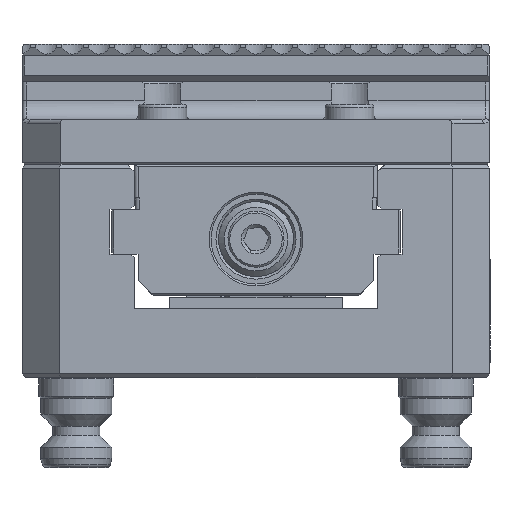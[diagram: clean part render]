
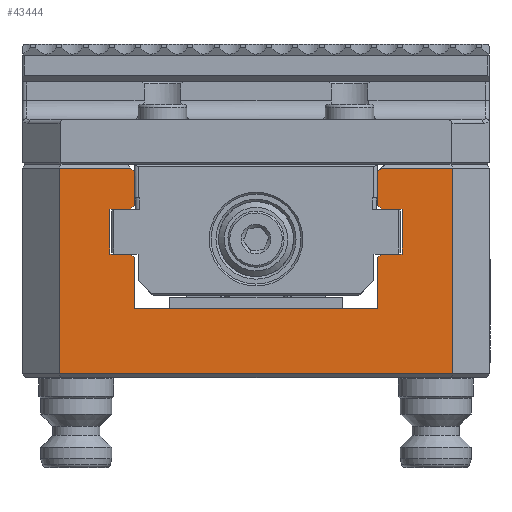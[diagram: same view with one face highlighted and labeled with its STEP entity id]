
A CAD part, left-side view. The second image highlights one B-rep face of the part: STEP entity #43444.
In plain terms, the highlighted planar face has unit normal (-1, 0, 0).
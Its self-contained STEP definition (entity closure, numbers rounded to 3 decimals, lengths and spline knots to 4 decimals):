
#3210=PLANE('',#45658);
#4335=LINE('',#68720,#8159);
#4402=LINE('',#69030,#8226);
#4414=LINE('',#69062,#8238);
#4427=LINE('',#69086,#8251);
#4433=LINE('',#69101,#8257);
#4481=LINE('',#69370,#8305);
#4492=LINE('',#69389,#8316);
#4550=LINE('',#69505,#8374);
#6076=LINE('',#82172,#9900);
#6091=LINE('',#82200,#9915);
#6098=LINE('',#82215,#9922);
#6105=LINE('',#82229,#9929);
#6113=LINE('',#82244,#9937);
#6124=LINE('',#82262,#9948);
#6125=LINE('',#82265,#9949);
#6131=LINE('',#82278,#9955);
#6132=LINE('',#82279,#9956);
#6133=LINE('',#82280,#9957);
#6134=LINE('',#82281,#9958);
#6135=LINE('',#82282,#9959);
#6136=LINE('',#82283,#9960);
#6137=LINE('',#82284,#9961);
#8159=VECTOR('',#48980,0.3937);
#8226=VECTOR('',#49273,0.3937);
#8238=VECTOR('',#49301,0.3937);
#8251=VECTOR('',#49316,0.3937);
#8257=VECTOR('',#49326,0.3937);
#8305=VECTOR('',#49522,0.3937);
#8316=VECTOR('',#49539,0.3937);
#8374=VECTOR('',#49603,0.3937);
#9900=VECTOR('',#51945,0.3937);
#9915=VECTOR('',#51972,0.3937);
#9922=VECTOR('',#51985,0.3937);
#9929=VECTOR('',#51994,0.3937);
#9937=VECTOR('',#52004,0.3937);
#9948=VECTOR('',#52019,0.3937);
#9949=VECTOR('',#52022,0.3937);
#9955=VECTOR('',#52030,0.3937);
#9956=VECTOR('',#52031,0.3937);
#9957=VECTOR('',#52032,0.3937);
#9958=VECTOR('',#52033,0.3937);
#9959=VECTOR('',#52034,0.3937);
#9960=VECTOR('',#52035,0.3937);
#9961=VECTOR('',#52036,0.3937);
#13180=FACE_OUTER_BOUND('',#15620,.T.);
#15620=EDGE_LOOP('',(#35190,#35191,#35192,#35193,#35194,#35195,#35196,#35197,
#35198,#35199,#35200,#35201,#35202,#35203,#35204,#35205,#35206,#35207,#35208,
#35209,#35210,#35211));
#18250=VERTEX_POINT('',#68717);
#18251=VERTEX_POINT('',#68719);
#18338=VERTEX_POINT('',#69028);
#18339=VERTEX_POINT('',#69029);
#18350=VERTEX_POINT('',#69060);
#18351=VERTEX_POINT('',#69061);
#18354=VERTEX_POINT('',#69069);
#18361=VERTEX_POINT('',#69084);
#18366=VERTEX_POINT('',#69097);
#18368=VERTEX_POINT('',#69100);
#18426=VERTEX_POINT('',#69367);
#18427=VERTEX_POINT('',#69369);
#18487=VERTEX_POINT('',#69504);
#20228=VERTEX_POINT('',#82169);
#20239=VERTEX_POINT('',#82212);
#20240=VERTEX_POINT('',#82214);
#20245=VERTEX_POINT('',#82226);
#20252=VERTEX_POINT('',#82242);
#20257=VERTEX_POINT('',#82260);
#20258=VERTEX_POINT('',#82264);
#20263=VERTEX_POINT('',#82276);
#20264=VERTEX_POINT('',#82277);
#22606=EDGE_CURVE('',#18251,#18250,#4335,.T.);
#22744=EDGE_CURVE('',#18338,#18339,#4402,.T.);
#22759=EDGE_CURVE('',#18350,#18351,#4414,.T.);
#22772=EDGE_CURVE('',#18361,#18354,#4427,.T.);
#22778=EDGE_CURVE('',#18366,#18368,#4433,.T.);
#22878=EDGE_CURVE('',#18426,#18427,#4481,.T.);
#22889=EDGE_CURVE('',#18368,#18426,#4492,.T.);
#22947=EDGE_CURVE('',#18354,#18487,#4550,.T.);
#25593=EDGE_CURVE('',#18487,#20228,#6076,.T.);
#25608=EDGE_CURVE('',#20228,#18366,#6091,.T.);
#25615=EDGE_CURVE('',#20239,#20240,#6098,.T.);
#25622=EDGE_CURVE('',#18250,#20245,#6105,.T.);
#25630=EDGE_CURVE('',#20252,#20245,#6113,.T.);
#25641=EDGE_CURVE('',#18251,#20257,#6124,.T.);
#25642=EDGE_CURVE('',#20257,#20258,#6125,.T.);
#25648=EDGE_CURVE('',#20263,#20264,#6131,.T.);
#25649=EDGE_CURVE('',#18351,#20263,#6132,.T.);
#25650=EDGE_CURVE('',#20258,#18350,#6133,.T.);
#25651=EDGE_CURVE('',#18339,#20252,#6134,.T.);
#25652=EDGE_CURVE('',#20240,#18338,#6135,.T.);
#25653=EDGE_CURVE('',#18427,#20239,#6136,.T.);
#25654=EDGE_CURVE('',#20264,#18361,#6137,.T.);
#35190=ORIENTED_EDGE('',*,*,#25648,.F.);
#35191=ORIENTED_EDGE('',*,*,#25649,.F.);
#35192=ORIENTED_EDGE('',*,*,#22759,.F.);
#35193=ORIENTED_EDGE('',*,*,#25650,.F.);
#35194=ORIENTED_EDGE('',*,*,#25642,.F.);
#35195=ORIENTED_EDGE('',*,*,#25641,.F.);
#35196=ORIENTED_EDGE('',*,*,#22606,.T.);
#35197=ORIENTED_EDGE('',*,*,#25622,.T.);
#35198=ORIENTED_EDGE('',*,*,#25630,.F.);
#35199=ORIENTED_EDGE('',*,*,#25651,.F.);
#35200=ORIENTED_EDGE('',*,*,#22744,.F.);
#35201=ORIENTED_EDGE('',*,*,#25652,.F.);
#35202=ORIENTED_EDGE('',*,*,#25615,.F.);
#35203=ORIENTED_EDGE('',*,*,#25653,.F.);
#35204=ORIENTED_EDGE('',*,*,#22878,.F.);
#35205=ORIENTED_EDGE('',*,*,#22889,.F.);
#35206=ORIENTED_EDGE('',*,*,#22778,.F.);
#35207=ORIENTED_EDGE('',*,*,#25608,.F.);
#35208=ORIENTED_EDGE('',*,*,#25593,.F.);
#35209=ORIENTED_EDGE('',*,*,#22947,.F.);
#35210=ORIENTED_EDGE('',*,*,#22772,.F.);
#35211=ORIENTED_EDGE('',*,*,#25654,.F.);
#43444=ADVANCED_FACE('',(#13180),#3210,.F.);
#45658=AXIS2_PLACEMENT_3D('',#82275,#52028,#52029);
#48980=DIRECTION('',(0.,1.,0.));
#49273=DIRECTION('',(0.,0.,-1.));
#49301=DIRECTION('',(0.,0.,1.));
#49316=DIRECTION('',(0.,-0.707,0.707));
#49326=DIRECTION('',(0.,0.,1.));
#49522=DIRECTION('',(0.,-0.707,-0.707));
#49539=DIRECTION('',(0.,-1.,0.));
#49603=DIRECTION('',(0.,-1.,0.));
#51945=DIRECTION('',(0.,0.,-1.));
#51972=DIRECTION('',(0.,1.,0.));
#51985=DIRECTION('',(0.,0.707,-0.707));
#51994=DIRECTION('',(0.,0.,1.));
#52004=DIRECTION('',(0.,-0.707,-0.707));
#52019=DIRECTION('',(0.,0.,1.));
#52022=DIRECTION('',(0.,-0.707,0.707));
#52028=DIRECTION('center_axis',(1.,0.,0.));
#52029=DIRECTION('ref_axis',(0.,1.,0.));
#52030=DIRECTION('',(0.,0.707,0.707));
#52031=DIRECTION('',(0.,1.,0.));
#52032=DIRECTION('',(0.,-1.,0.));
#52033=DIRECTION('',(0.,-1.,0.));
#52034=DIRECTION('',(0.,1.,0.));
#52035=DIRECTION('',(0.,0.,-1.));
#52036=DIRECTION('',(0.,0.,1.));
#68717=CARTESIAN_POINT('',(-3.1496,1.2795,1.1614));
#68719=CARTESIAN_POINT('',(-3.1496,-1.2795,1.1614));
#68720=CARTESIAN_POINT('',(-3.1496,-1.6436,1.1614));
#69028=CARTESIAN_POINT('',(-3.1496,1.5354,2.2047));
#69029=CARTESIAN_POINT('',(-3.1496,1.5354,1.7323));
#69030=CARTESIAN_POINT('',(-3.1496,1.5354,1.3189));
#69060=CARTESIAN_POINT('',(-3.1496,-1.5354,1.7323));
#69061=CARTESIAN_POINT('',(-3.1496,-1.5354,2.2047));
#69062=CARTESIAN_POINT('',(-3.1496,-1.5354,1.3189));
#69069=CARTESIAN_POINT('',(-3.1496,-1.3189,2.6378));
#69084=CARTESIAN_POINT('',(-3.1496,-1.2795,2.5984));
#69086=CARTESIAN_POINT('',(-3.1496,-1.2795,2.5984));
#69097=CARTESIAN_POINT('',(-3.1496,2.0669,0.4724));
#69100=CARTESIAN_POINT('',(-3.1496,2.0669,2.6378));
#69101=CARTESIAN_POINT('',(-3.1496,2.0669,0.4331));
#69367=CARTESIAN_POINT('',(-3.1496,1.3189,2.6378));
#69369=CARTESIAN_POINT('',(-3.1496,1.2795,2.5984));
#69370=CARTESIAN_POINT('',(-3.1496,-0.3641,0.9548));
#69389=CARTESIAN_POINT('',(-3.1496,-0.4133,2.6378));
#69504=CARTESIAN_POINT('',(-3.1496,-2.0669,2.6378));
#69505=CARTESIAN_POINT('',(-3.1496,-2.8739,2.6378));
#82169=CARTESIAN_POINT('',(-3.1496,-2.0669,0.4724));
#82172=CARTESIAN_POINT('',(-3.1496,-2.0669,0.4331));
#82200=CARTESIAN_POINT('',(-3.1496,-2.8739,0.4724));
#82212=CARTESIAN_POINT('',(-3.1496,1.2795,2.2441));
#82214=CARTESIAN_POINT('',(-3.1496,1.3189,2.2047));
#82215=CARTESIAN_POINT('',(-3.1496,0.6004,2.9232));
#82226=CARTESIAN_POINT('',(-3.1496,1.2795,1.6929));
#82229=CARTESIAN_POINT('',(-3.1496,1.2795,0.8071));
#82242=CARTESIAN_POINT('',(-3.1496,1.3189,1.7323));
#82244=CARTESIAN_POINT('',(-3.1496,-0.1673,0.2461));
#82260=CARTESIAN_POINT('',(-3.1496,-1.2795,1.6929));
#82262=CARTESIAN_POINT('',(-3.1496,-1.2795,1.0827));
#82264=CARTESIAN_POINT('',(-3.1496,-1.3189,1.7323));
#82265=CARTESIAN_POINT('',(-3.1496,-1.4763,1.8897));
#82275=CARTESIAN_POINT('Origin',(-3.1496,-3.2872,0.4331));
#82276=CARTESIAN_POINT('',(-3.1496,-1.3189,2.2047));
#82277=CARTESIAN_POINT('',(-3.1496,-1.2795,2.2441));
#82278=CARTESIAN_POINT('',(-3.1496,-2.244,1.2796));
#82279=CARTESIAN_POINT('',(-3.1496,-2.2834,2.2047));
#82280=CARTESIAN_POINT('',(-3.1496,-2.4113,1.7323));
#82281=CARTESIAN_POINT('',(-3.1496,-0.8759,1.7323));
#82282=CARTESIAN_POINT('',(-3.1496,-1.0038,2.2047));
#82283=CARTESIAN_POINT('',(-3.1496,1.2795,1.5157));
#82284=CARTESIAN_POINT('',(-3.1496,-1.2795,1.5157));
